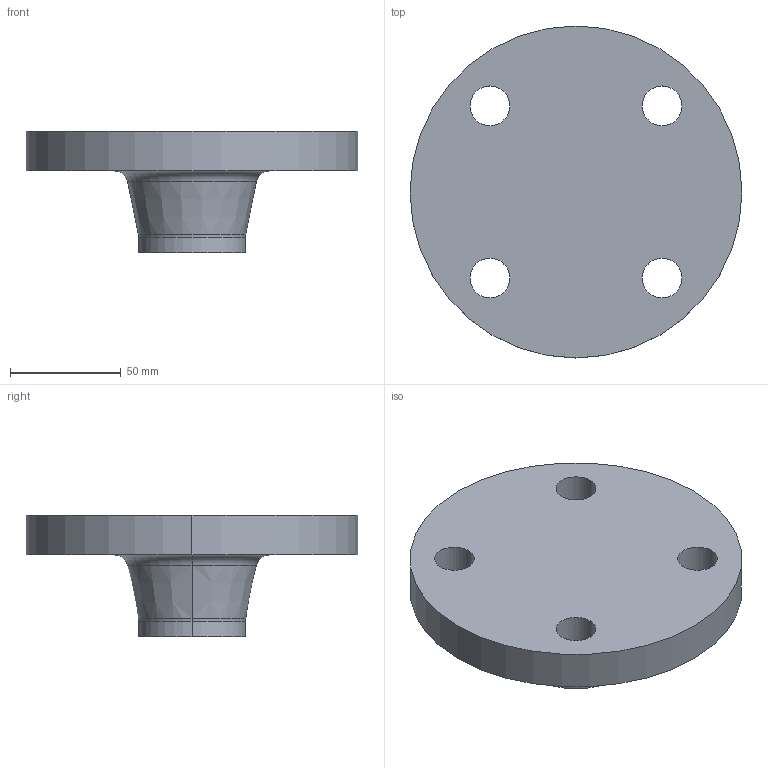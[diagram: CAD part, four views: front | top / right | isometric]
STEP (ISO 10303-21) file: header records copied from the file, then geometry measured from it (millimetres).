
FILE_DESCRIPTION (( 'STEP AP214' ), '1' );
FILE_NAME ('PN40 DN40 Type 21(ii) - Type A Face.STEP', '2018-12-30T01:29:46', ( '' ), ( '' ), 'SwSTEP 2.0', 'SolidWorks 2019', '' );
FILE_SCHEMA (( 'AUTOMOTIVE_DESIGN' ));
Length unit declared in the file: millimetre
Products named in the file (1): PN40 DN40 Type 21(ii) - Type A Face
Bounding box: 150 x 150 x 55 mm (x, y, z)
Volume: 382825.4 mm3; surface area: 50823.6 mm2
Topology: 1 solids, 1 shells, 21 faces, 48 edges, 30 vertices
Faces by surface type: cylinder 12, torus 4, plane 3, cone 2
Entity records: 658 total; most frequent: DIRECTION 126, CARTESIAN_POINT 100, ORIENTED_EDGE 96, AXIS2_PLACEMENT_3D 56, EDGE_CURVE 48, CIRCLE 34, EDGE_LOOP 30, VERTEX_POINT 30
